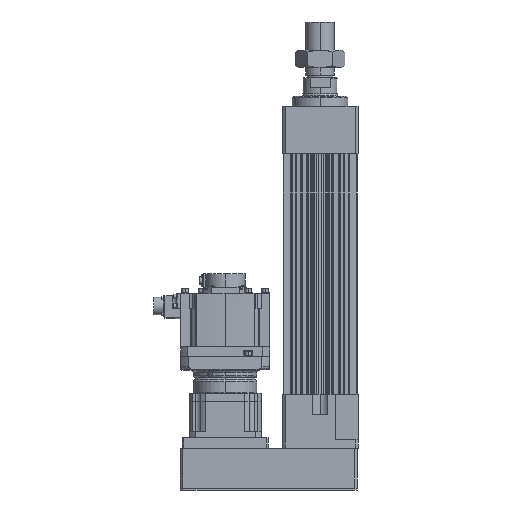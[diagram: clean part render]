
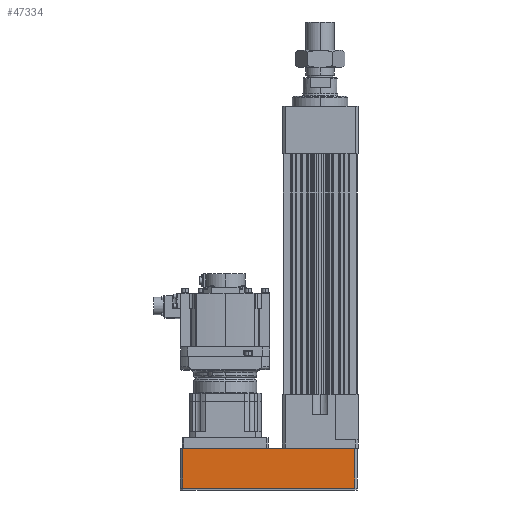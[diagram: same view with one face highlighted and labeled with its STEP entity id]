
A CAD part, left-side view. The second image highlights one B-rep face of the part: STEP entity #47334.
In plain terms, the highlighted planar face has unit normal (-1, 0, 0).
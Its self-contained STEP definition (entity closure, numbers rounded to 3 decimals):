
#670 = LINE ( 'NONE', #14565, #45008 ) ;
#3965 = VECTOR ( 'NONE', #7863, 1000. ) ;
#5521 = EDGE_LOOP ( 'NONE', ( #22562, #12739, #21835, #10656 ) ) ;
#7863 = DIRECTION ( 'NONE',  ( 0., 1., 0. ) ) ;
#8207 = CARTESIAN_POINT ( 'NONE',  ( -73.5, -68.5, -185.5 ) ) ;
#9228 = CARTESIAN_POINT ( 'NONE',  ( -73.5, -68.5, -186. ) ) ;
#9654 = VERTEX_POINT ( 'NONE', #21334 ) ;
#10656 = ORIENTED_EDGE ( 'NONE', *, *, #32695, .T. ) ;
#12739 = ORIENTED_EDGE ( 'NONE', *, *, #47044, .T. ) ;
#13065 = DIRECTION ( 'NONE',  ( 0., 0., 1. ) ) ;
#13204 = AXIS2_PLACEMENT_3D ( 'NONE', #52300, #19384, #43751 ) ;
#14565 = CARTESIAN_POINT ( 'NONE',  ( -73.5, 271.5, -186. ) ) ;
#19384 = DIRECTION ( 'NONE',  ( 1., 0., 0. ) ) ;
#21334 = CARTESIAN_POINT ( 'NONE',  ( -73.5, 271.5, -185.5 ) ) ;
#21835 = ORIENTED_EDGE ( 'NONE', *, *, #24428, .T. ) ;
#22562 = ORIENTED_EDGE ( 'NONE', *, *, #45152, .F. ) ;
#23063 = VERTEX_POINT ( 'NONE', #51557 ) ;
#24071 = VERTEX_POINT ( 'NONE', #8207 ) ;
#24274 = CARTESIAN_POINT ( 'NONE',  ( -73.5, -68.5, -106.5 ) ) ;
#24428 = EDGE_CURVE ( 'NONE', #24071, #23063, #32335, .T. ) ;
#24574 = VERTEX_POINT ( 'NONE', #46892 ) ;
#30094 = CARTESIAN_POINT ( 'NONE',  ( -73.5, -68.5, -185.5 ) ) ;
#31191 = LINE ( 'NONE', #30094, #50765 ) ;
#32335 = LINE ( 'NONE', #9228, #39527 ) ;
#32695 = EDGE_CURVE ( 'NONE', #23063, #24574, #37206, .T. ) ;
#37206 = LINE ( 'NONE', #24274, #3965 ) ;
#39527 = VECTOR ( 'NONE', #13065, 1000. ) ;
#43467 = DIRECTION ( 'NONE',  ( 0., 0., 1. ) ) ;
#43546 = PLANE ( 'NONE',  #13204 ) ;
#43751 = DIRECTION ( 'NONE',  ( 0., 1., 0. ) ) ;
#45008 = VECTOR ( 'NONE', #43467, 1000. ) ;
#45152 = EDGE_CURVE ( 'NONE', #9654, #24574, #670, .T. ) ;
#45476 = FACE_OUTER_BOUND ( 'NONE', #5521, .T. ) ;
#46646 = DIRECTION ( 'NONE',  ( 0., -1., 0. ) ) ;
#46892 = CARTESIAN_POINT ( 'NONE',  ( -73.5, 271.5, -106.5 ) ) ;
#47044 = EDGE_CURVE ( 'NONE', #9654, #24071, #31191, .T. ) ;
#47334 = ADVANCED_FACE ( 'NONE', ( #45476 ), #43546, .F. ) ;
#50765 = VECTOR ( 'NONE', #46646, 1000. ) ;
#51557 = CARTESIAN_POINT ( 'NONE',  ( -73.5, -68.5, -106.5 ) ) ;
#52300 = CARTESIAN_POINT ( 'NONE',  ( -73.5, -68.5, -186. ) ) ;
